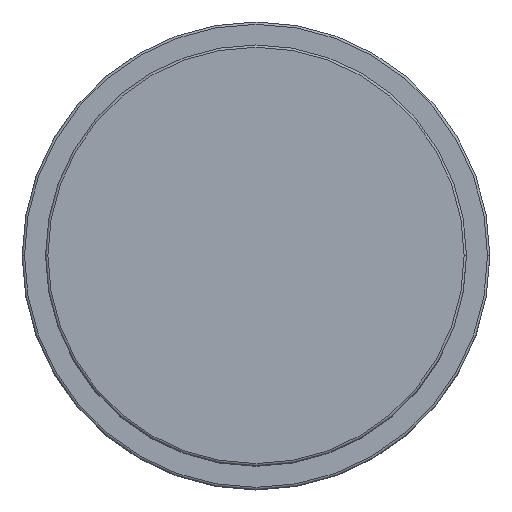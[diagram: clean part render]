
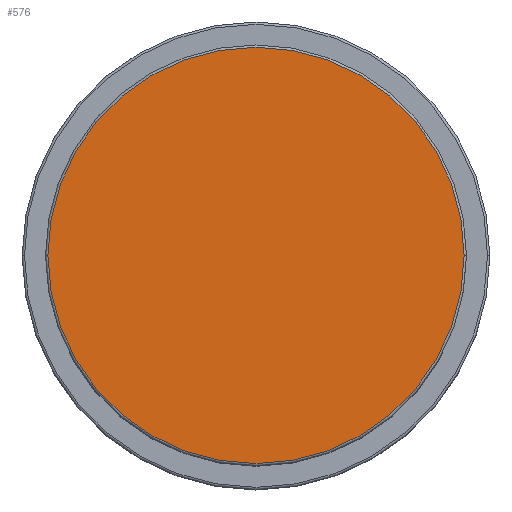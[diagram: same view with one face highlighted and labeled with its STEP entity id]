
A CAD part, top view. The second image highlights one B-rep face of the part: STEP entity #576.
In plain terms, the highlighted planar face has unit normal (0, 0, 1).
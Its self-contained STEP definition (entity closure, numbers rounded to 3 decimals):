
#6 = ORIENTED_EDGE ( 'NONE', *, *, #264, .T. ) ;
#95 = CARTESIAN_POINT ( 'NONE',  ( 0., 0., 72. ) ) ;
#199 = CIRCLE ( 'NONE', #1620, 44.5 ) ;
#211 = VERTEX_POINT ( 'NONE', #947 ) ;
#264 = EDGE_CURVE ( 'NONE', #1178, #211, #199, .T. ) ;
#315 = CARTESIAN_POINT ( 'NONE',  ( 0., 0., 72. ) ) ;
#342 = CIRCLE ( 'NONE', #635, 44.5 ) ;
#396 = EDGE_CURVE ( 'NONE', #211, #1178, #342, .T. ) ;
#576 = ADVANCED_FACE ( 'NONE', ( #1689 ), #1965, .T. ) ;
#634 = DIRECTION ( 'NONE',  ( 0., 0., 1. ) ) ;
#635 = AXIS2_PLACEMENT_3D ( 'NONE', #1269, #1288, #1426 ) ;
#663 = EDGE_LOOP ( 'NONE', ( #6, #1842 ) ) ;
#947 = CARTESIAN_POINT ( 'NONE',  ( -44.5, 0., 72. ) ) ;
#1021 = AXIS2_PLACEMENT_3D ( 'NONE', #95, #1333, #1495 ) ;
#1072 = CARTESIAN_POINT ( 'NONE',  ( 44.5, 0., 72. ) ) ;
#1178 = VERTEX_POINT ( 'NONE', #1072 ) ;
#1269 = CARTESIAN_POINT ( 'NONE',  ( 0., 0., 72. ) ) ;
#1288 = DIRECTION ( 'NONE',  ( 0., 0., 1. ) ) ;
#1333 = DIRECTION ( 'NONE',  ( 0., 0., 1. ) ) ;
#1386 = DIRECTION ( 'NONE',  ( 1., 0., 0. ) ) ;
#1426 = DIRECTION ( 'NONE',  ( 1., 0., 0. ) ) ;
#1495 = DIRECTION ( 'NONE',  ( 1., 0., 0. ) ) ;
#1620 = AXIS2_PLACEMENT_3D ( 'NONE', #315, #634, #1386 ) ;
#1689 = FACE_OUTER_BOUND ( 'NONE', #663, .T. ) ;
#1842 = ORIENTED_EDGE ( 'NONE', *, *, #396, .T. ) ;
#1965 = PLANE ( 'NONE',  #1021 ) ;
